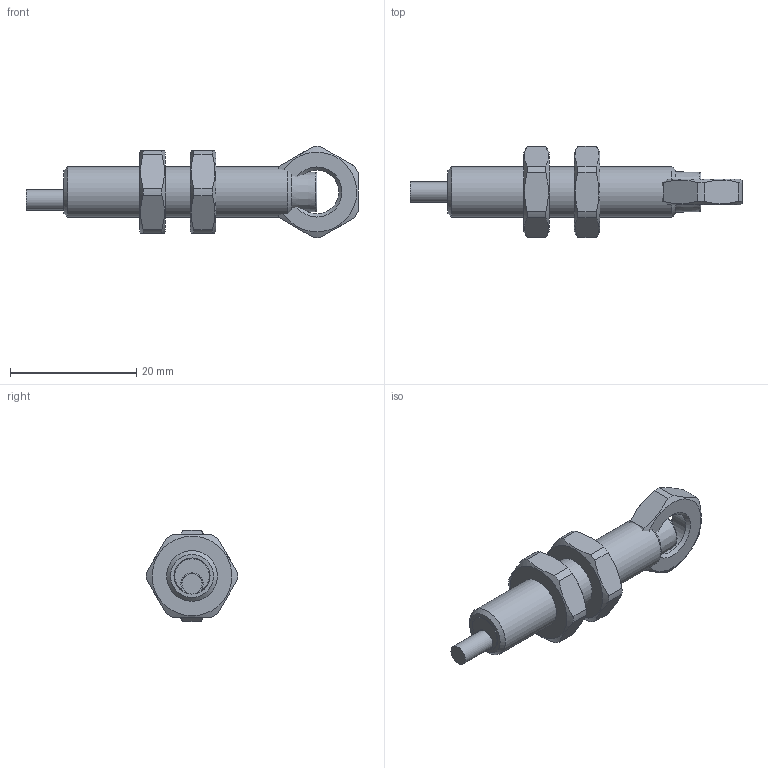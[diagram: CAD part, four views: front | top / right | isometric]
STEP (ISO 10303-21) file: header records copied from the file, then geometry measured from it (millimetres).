
FILE_DESCRIPTION( ( 'Unknown' ), '1' );
FILE_NAME( '//server-file-1/e_me/Solid Edge/Models/Dokumentationen/induktiv/IxRx 08/Vereinfachte Modelle/Neutralformate/IFRM 08xx3G1_L.stp', 'Unknown', ( 'Unknown' ), ( 'Unknown' ), 'XStep 1.0', 'Unknown', ' ' );
FILE_SCHEMA( ( 'CONFIG_CONTROL_DESIGN' ) );
Length unit declared in the file: millimetre
Products named in the file (3): Assem1; IFRM 08xx3G1_L_oA; 101469
Bounding box: 52.5 x 14.39 x 14.4 mm (x, y, z)
Volume: 5199.6 mm3; surface area: 3593.3 mm2
Topology: 5 solids, 5 shells, 95 faces, 227 edges, 150 vertices
Faces by surface type: plane 44, cylinder 27, cone 22, torus 2
Full cylindrical faces by diameter (mm): 3.2 x2, 5.7 x2, 6.917 x3, 8 x2
Entity records: 1207 total; most frequent: CARTESIAN_POINT 276, DIRECTION 170, ORIENTED_EDGE 142, AXIS2_PLACEMENT_3D 75, EDGE_CURVE 71, EDGE_LOOP 56, VERTEX_POINT 53, FACE_OUTER_BOUND 43
